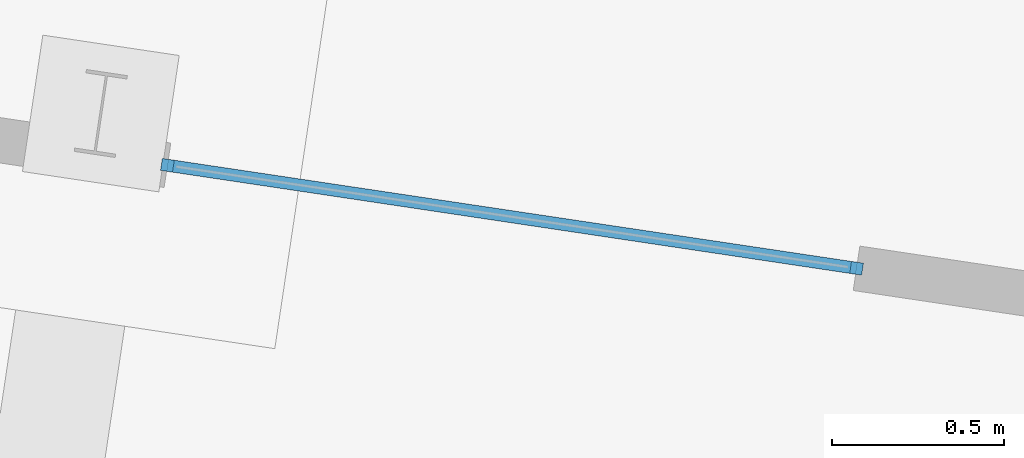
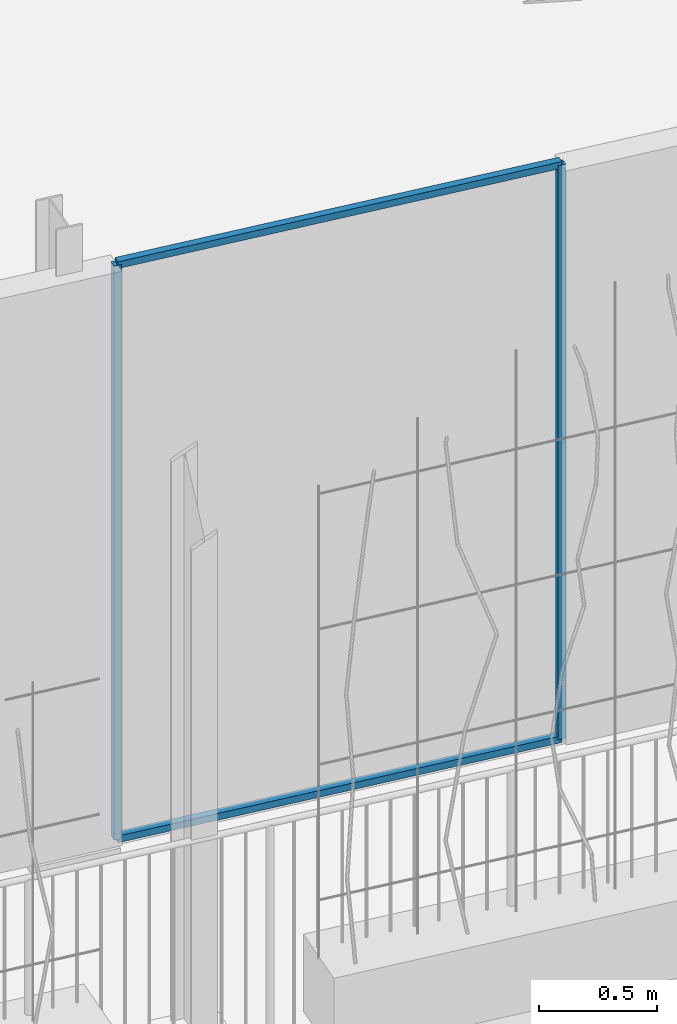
# One storey, part 95 of 143: 4 members.
"""IFC4 building model written with IfcOpenShell, lengths in metres."""

from ifc_helpers import new_model, si_unit, direction, frame, origin_with_axes, place, context, subcontext, project, spatial, rectangle, extrude, material, material_profile, profile_set, profile_usage, type_object, element, save


model = new_model("IFC4")

# Units and contexts
model_context = context("Model", 3, precision=1e-05, world=origin_with_axes(), true_north=direction((0.0, 1.0)))
body_context = subcontext(model_context, "Body", "Model", "MODEL_VIEW")
ifc_project = project(units=[si_unit("VOLUMEUNIT", "CUBIC_METRE"), si_unit("LENGTHUNIT", "METRE"), si_unit("AREAUNIT", "SQUARE_METRE")], contexts=[model_context])

# Site, building, storey
site_placement = place(None, origin_with_axes())
site = spatial("IfcSite", under=ifc_project, at=site_placement, Name="Lares · Rua das Mercês · artigo 4771")
building_placement = place(site_placement, frame((15.0, 9.7, 15.8), z_axis=(0.0, 0.0, 1.0), x_axis=(0.989015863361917, -0.147809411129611, 0.0)))
building = spatial("IfcBuilding", under=site, at=building_placement, Name="Casa Sobreposta")
storey_placement = place(building_placement, origin_with_axes())
storey = spatial("IfcBuildingStorey", under=building, at=storey_placement, Name="00 · Habitação e estacionamento", Elevation=15.8)

# Members
ifc_material = material(Name="Aço pintado / Stahl lackiert", Category="steel")
ifc_material_profile = material_profile(ifc_material, rectangle(XDim=0.035, YDim=0.035))
ifc_profile_set = profile_set([ifc_material_profile], Name="R0.035")
ifc_profile_usage_1 = profile_usage(ifc_profile_set)
member_type = type_object("IfcMemberType", Name="R0.035 / steel", PredefinedType="NOTDEFINED", material=ifc_profile_set)
member_1_placement = place(storey_placement, frame((20.2133333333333, 0.0, 0.0), z_axis=(0.0, 0.0, 1.0), x_axis=(1.0, 0.0, 0.0)))
element("IfcMember", 1, at=member_1_placement, inside=storey, type_object=member_type, material=ifc_profile_usage_1, Name="Folha de correr sul 10 · montante", context=body_context, shape_type="SweptSolid", body=[
    extrude(rectangle(XDim=0.035, YDim=0.035), origin_with_axes(), (0.0, 0.0, 1.0), 2.968),
])
ifc_profile_usage_2 = profile_usage(ifc_profile_set)
member_2_placement = place(storey_placement, frame((22.2346666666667, 0.0, 0.0), z_axis=(0.0, 0.0, 1.0), x_axis=(1.0, 0.0, 0.0)))
element("IfcMember", 2, at=member_2_placement, inside=storey, type_object=member_type, material=ifc_profile_usage_2, Name="Folha de correr sul 10 · montante", context=body_context, shape_type="SweptSolid", body=[
    extrude(rectangle(XDim=0.035, YDim=0.035), origin_with_axes(), (0.0, 0.0, 1.0), 2.968),
])
ifc_profile_usage_3 = profile_usage(ifc_profile_set)
member_3_placement = place(storey_placement, frame((20.2133333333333, 0.0, 0.0), z_axis=(1.0, 0.0, 0.0), x_axis=(0.0, -1.0, 0.0)))
element("IfcMember", 3, at=member_3_placement, inside=storey, type_object=member_type, material=ifc_profile_usage_3, Name="Folha de correr sul 10 · travessa", context=body_context, shape_type="SweptSolid", body=[
    extrude(rectangle(XDim=0.035, YDim=0.035), origin_with_axes(), (0.0, 0.0, 1.0), 2.02133333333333),
])
ifc_profile_usage_4 = profile_usage(ifc_profile_set)
member_4_placement = place(storey_placement, frame((20.2133333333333, 0.0, 2.968), z_axis=(1.0, 0.0, 0.0), x_axis=(0.0, -1.0, 0.0)))
element("IfcMember", 4, at=member_4_placement, inside=storey, type_object=member_type, material=ifc_profile_usage_4, Name="Folha de correr sul 10 · travessa", context=body_context, shape_type="SweptSolid", body=[
    extrude(rectangle(XDim=0.035, YDim=0.035), origin_with_axes(), (0.0, 0.0, 1.0), 2.02133333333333),
])

save(model, "model.ifc")
